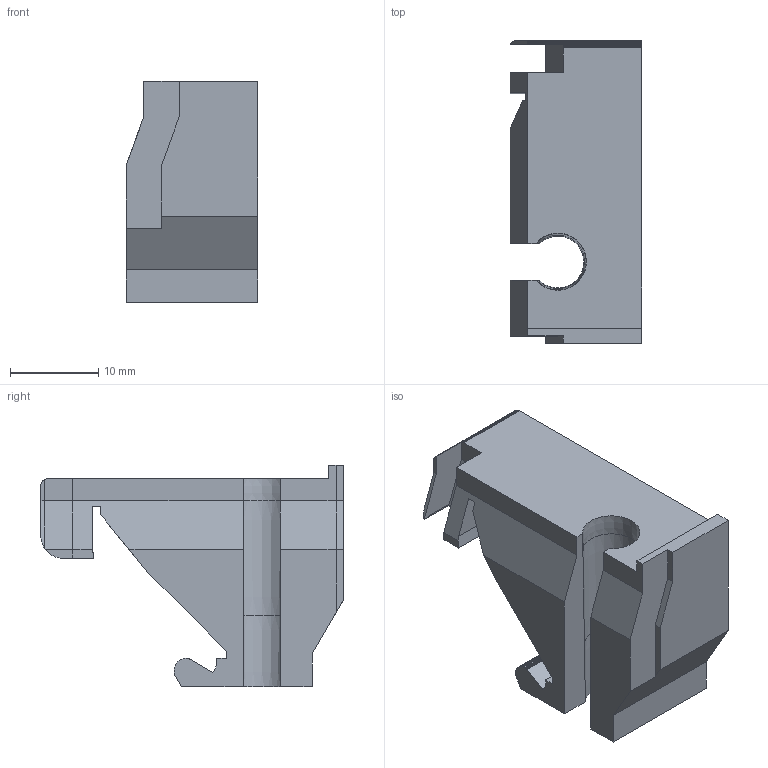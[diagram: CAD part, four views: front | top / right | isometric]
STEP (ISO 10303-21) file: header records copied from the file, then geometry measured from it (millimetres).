
FILE_DESCRIPTION(('Open CASCADE Model'),'2;1');
FILE_NAME('Open CASCADE Shape Model','2026-10-24T08:16:25',('Author'),( 'Open CASCADE'),'Open CASCADE STEP processor 8.0','build123d', 'Unknown');
FILE_SCHEMA(('AUTOMOTIVE_DESIGN { 1 0 10303 214 1 1 1 1 }'));
Length unit declared in the file: millimetre
Products named in the file (1): SOLID
Bounding box: 14.9 x 34.2 x 25 mm (x, y, z)
Volume: 6476.8 mm3; surface area: 3243.2 mm2
Topology: 1 solids, 1 shells, 94 faces, 275 edges, 183 vertices
Faces by surface type: plane 91, cone 3
Entity records: 6266 total; most frequent: CARTESIAN_POINT 1698, ORIENTED_EDGE 550, PCURVE 550, DEFINITIONAL_REPRESENTATION 550, DIRECTION 535, B_SPLINE_CURVE_WITH_KNOTS 483, LINE 336, VECTOR 336
